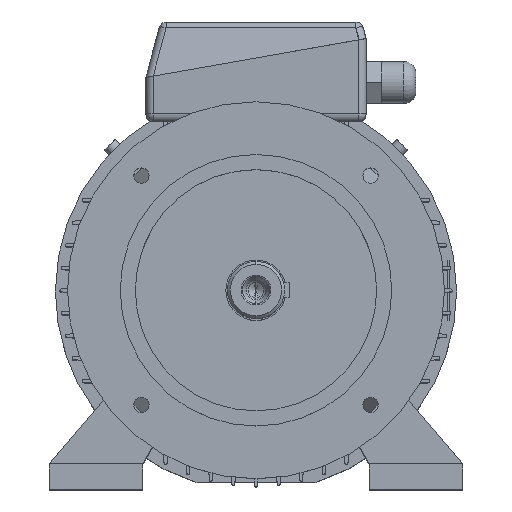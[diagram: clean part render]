
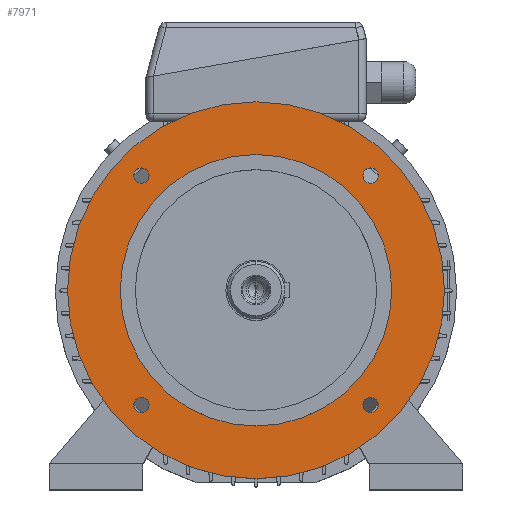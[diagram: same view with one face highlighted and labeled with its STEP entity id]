
A CAD part, top view. The second image highlights one B-rep face of the part: STEP entity #7971.
In plain terms, the highlighted planar face has unit normal (0, 0, 1).
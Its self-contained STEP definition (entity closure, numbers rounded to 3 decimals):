
#92 = EDGE_CURVE ( 'NONE', #13679, #1226, #9450, .T. ) ;
#735 = VERTEX_POINT ( 'NONE', #10415 ) ;
#827 = CIRCLE ( 'NONE', #828, 5.1 ) ;
#828 = AXIS2_PLACEMENT_3D ( 'NONE', #829, #830, #831 ) ;
#829 = CARTESIAN_POINT ( 'NONE',  ( -76.014, 76.014, 58. ) ) ;
#830 = DIRECTION ( 'NONE',  ( 0., 0., 1. ) ) ;
#831 = DIRECTION ( 'NONE',  ( 1., 0., 0. ) ) ;
#1226 = VERTEX_POINT ( 'NONE', #10659 ) ;
#1460 = EDGE_LOOP ( 'NONE', ( #5967, #5378 ) ) ;
#1474 = CIRCLE ( 'NONE', #1475, 90. ) ;
#1475 = AXIS2_PLACEMENT_3D ( 'NONE', #1476, #1481, #1482 ) ;
#1476 = CARTESIAN_POINT ( 'NONE',  ( 0., 0., 58. ) ) ;
#1481 = DIRECTION ( 'NONE',  ( 0., 0., 1. ) ) ;
#1482 = DIRECTION ( 'NONE',  ( 1., 0., 0. ) ) ;
#1724 = ORIENTED_EDGE ( 'NONE', *, *, #7813, .F. ) ;
#1893 = CARTESIAN_POINT ( 'NONE',  ( 125., 0., 58. ) ) ;
#2061 = CARTESIAN_POINT ( 'NONE',  ( -70.914, 76.014, 58. ) ) ;
#2119 = FACE_BOUND ( 'NONE', #7911, .T. ) ;
#2120 = FACE_BOUND ( 'NONE', #7433, .T. ) ;
#2121 = FACE_BOUND ( 'NONE', #6693, .T. ) ;
#2122 = FACE_BOUND ( 'NONE', #4722, .T. ) ;
#2123 = FACE_BOUND ( 'NONE', #2871, .T. ) ;
#2124 = FACE_OUTER_BOUND ( 'NONE', #1460, .T. ) ;
#2125 = PLANE ( 'NONE',  #2126 ) ;
#2126 = AXIS2_PLACEMENT_3D ( 'NONE', #2127, #2128, #2129 ) ;
#2127 = CARTESIAN_POINT ( 'NONE',  ( 0., 125., 58. ) ) ;
#2128 = DIRECTION ( 'NONE',  ( 0., 0., -1. ) ) ;
#2129 = DIRECTION ( 'NONE',  ( -1., 0., 0. ) ) ;
#2226 = CIRCLE ( 'NONE', #2227, 5.1 ) ;
#2227 = AXIS2_PLACEMENT_3D ( 'NONE', #2228, #2229, #2230 ) ;
#2228 = CARTESIAN_POINT ( 'NONE',  ( -76.014, 76.014, 58. ) ) ;
#2229 = DIRECTION ( 'NONE',  ( 0., 0., 1. ) ) ;
#2230 = DIRECTION ( 'NONE',  ( 1., 0., 0. ) ) ;
#2298 = ORIENTED_EDGE ( 'NONE', *, *, #10981, .F. ) ;
#2871 = EDGE_LOOP ( 'NONE', ( #2298, #1724 ) ) ;
#3143 = ORIENTED_EDGE ( 'NONE', *, *, #9378, .F. ) ;
#3732 = EDGE_CURVE ( 'NONE', #735, #10815, #11857, .T. ) ;
#4137 = ORIENTED_EDGE ( 'NONE', *, *, #3732, .F. ) ;
#4349 = VERTEX_POINT ( 'NONE', #12187 ) ;
#4594 = EDGE_CURVE ( 'NONE', #5589, #4349, #12319, .T. ) ;
#4722 = EDGE_LOOP ( 'NONE', ( #4137, #3143 ) ) ;
#4946 = VERTEX_POINT ( 'NONE', #12527 ) ;
#4965 = EDGE_CURVE ( 'NONE', #1226, #13679, #12536, .T. ) ;
#4988 = ORIENTED_EDGE ( 'NONE', *, *, #4594, .F. ) ;
#5176 = CIRCLE ( 'NONE', #5177, 5.1 ) ;
#5177 = AXIS2_PLACEMENT_3D ( 'NONE', #5178, #5179, #5185 ) ;
#5178 = CARTESIAN_POINT ( 'NONE',  ( -76.014, -76.014, 58. ) ) ;
#5179 = DIRECTION ( 'NONE',  ( 0., 0., 1. ) ) ;
#5183 = EDGE_CURVE ( 'NONE', #6187, #4946, #12640, .T. ) ;
#5185 = DIRECTION ( 'NONE',  ( 1., 0., 0. ) ) ;
#5378 = ORIENTED_EDGE ( 'NONE', *, *, #4965, .T. ) ;
#5567 = EDGE_CURVE ( 'NONE', #4349, #5589, #12830, .T. ) ;
#5589 = VERTEX_POINT ( 'NONE', #12850 ) ;
#5821 = CARTESIAN_POINT ( 'NONE',  ( -90., 0., 58. ) ) ;
#5949 = CARTESIAN_POINT ( 'NONE',  ( 90., 0., 58. ) ) ;
#5967 = ORIENTED_EDGE ( 'NONE', *, *, #92, .T. ) ;
#5993 = ORIENTED_EDGE ( 'NONE', *, *, #5567, .F. ) ;
#6017 = CARTESIAN_POINT ( 'NONE',  ( -81.114, -76.014, 58. ) ) ;
#6085 = CIRCLE ( 'NONE', #6086, 90. ) ;
#6086 = AXIS2_PLACEMENT_3D ( 'NONE', #6087, #6092, #6093 ) ;
#6087 = CARTESIAN_POINT ( 'NONE',  ( 0., 0., 58. ) ) ;
#6092 = DIRECTION ( 'NONE',  ( 0., 0., 1. ) ) ;
#6093 = DIRECTION ( 'NONE',  ( 1., 0., 0. ) ) ;
#6187 = VERTEX_POINT ( 'NONE', #13124 ) ;
#6693 = EDGE_LOOP ( 'NONE', ( #5993, #4988 ) ) ;
#6715 = VERTEX_POINT ( 'NONE', #13345 ) ;
#6850 = ORIENTED_EDGE ( 'NONE', *, *, #5183, .F. ) ;
#7215 = EDGE_CURVE ( 'NONE', #4946, #6187, #13772, .T. ) ;
#7297 = ORIENTED_EDGE ( 'NONE', *, *, #7215, .F. ) ;
#7433 = EDGE_LOOP ( 'NONE', ( #7297, #6850 ) ) ;
#7489 = ORIENTED_EDGE ( 'NONE', *, *, #8019, .F. ) ;
#7627 = EDGE_CURVE ( 'NONE', #7949, #6715, #827, .T. ) ;
#7735 = ORIENTED_EDGE ( 'NONE', *, *, #7627, .F. ) ;
#7813 = EDGE_CURVE ( 'NONE', #10477, #10728, #1474, .T. ) ;
#7911 = EDGE_LOOP ( 'NONE', ( #7735, #7489 ) ) ;
#7949 = VERTEX_POINT ( 'NONE', #2061 ) ;
#7971 = ADVANCED_FACE ( 'NONE', ( #2119, #2120, #2121, #2122, #2123, #2124 ), #2125, .F. ) ;
#8019 = EDGE_CURVE ( 'NONE', #6715, #7949, #2226, .T. ) ;
#9378 = EDGE_CURVE ( 'NONE', #10815, #735, #5176, .T. ) ;
#9450 = CIRCLE ( 'NONE', #9451, 125. ) ;
#9451 = AXIS2_PLACEMENT_3D ( 'NONE', #9452, #9453, #9454 ) ;
#9452 = CARTESIAN_POINT ( 'NONE',  ( 0., 0., 58. ) ) ;
#9453 = DIRECTION ( 'NONE',  ( 0., 0., 1. ) ) ;
#9454 = DIRECTION ( 'NONE',  ( 1., 0., 0. ) ) ;
#10415 = CARTESIAN_POINT ( 'NONE',  ( -70.914, -76.014, 58. ) ) ;
#10477 = VERTEX_POINT ( 'NONE', #5821 ) ;
#10659 = CARTESIAN_POINT ( 'NONE',  ( -125., 0., 58. ) ) ;
#10728 = VERTEX_POINT ( 'NONE', #5949 ) ;
#10815 = VERTEX_POINT ( 'NONE', #6017 ) ;
#10981 = EDGE_CURVE ( 'NONE', #10728, #10477, #6085, .T. ) ;
#11857 = CIRCLE ( 'NONE', #11858, 5.1 ) ;
#11858 = AXIS2_PLACEMENT_3D ( 'NONE', #11859, #11860, #11861 ) ;
#11859 = CARTESIAN_POINT ( 'NONE',  ( -76.014, -76.014, 58. ) ) ;
#11860 = DIRECTION ( 'NONE',  ( 0., 0., 1. ) ) ;
#11861 = DIRECTION ( 'NONE',  ( 1., 0., 0. ) ) ;
#12187 = CARTESIAN_POINT ( 'NONE',  ( 81.114, -76.014, 58. ) ) ;
#12319 = CIRCLE ( 'NONE', #12326, 5.1 ) ;
#12326 = AXIS2_PLACEMENT_3D ( 'NONE', #12327, #12328, #12329 ) ;
#12327 = CARTESIAN_POINT ( 'NONE',  ( 76.014, -76.014, 58. ) ) ;
#12328 = DIRECTION ( 'NONE',  ( 0., 0., 1. ) ) ;
#12329 = DIRECTION ( 'NONE',  ( 1., 0., 0. ) ) ;
#12527 = CARTESIAN_POINT ( 'NONE',  ( 81.114, 76.014, 58. ) ) ;
#12536 = CIRCLE ( 'NONE', #12537, 125. ) ;
#12537 = AXIS2_PLACEMENT_3D ( 'NONE', #12538, #12539, #12540 ) ;
#12538 = CARTESIAN_POINT ( 'NONE',  ( 0., 0., 58. ) ) ;
#12539 = DIRECTION ( 'NONE',  ( 0., 0., 1. ) ) ;
#12540 = DIRECTION ( 'NONE',  ( 1., 0., 0. ) ) ;
#12640 = CIRCLE ( 'NONE', #12641, 5.1 ) ;
#12641 = AXIS2_PLACEMENT_3D ( 'NONE', #12642, #12643, #12644 ) ;
#12642 = CARTESIAN_POINT ( 'NONE',  ( 76.014, 76.014, 58. ) ) ;
#12643 = DIRECTION ( 'NONE',  ( 0., 0., 1. ) ) ;
#12644 = DIRECTION ( 'NONE',  ( 1., 0., 0. ) ) ;
#12830 = CIRCLE ( 'NONE', #12831, 5.1 ) ;
#12831 = AXIS2_PLACEMENT_3D ( 'NONE', #12832, #12833, #12834 ) ;
#12832 = CARTESIAN_POINT ( 'NONE',  ( 76.014, -76.014, 58. ) ) ;
#12833 = DIRECTION ( 'NONE',  ( 0., 0., 1. ) ) ;
#12834 = DIRECTION ( 'NONE',  ( 1., 0., 0. ) ) ;
#12850 = CARTESIAN_POINT ( 'NONE',  ( 70.914, -76.014, 58. ) ) ;
#13124 = CARTESIAN_POINT ( 'NONE',  ( 70.914, 76.014, 58. ) ) ;
#13345 = CARTESIAN_POINT ( 'NONE',  ( -81.114, 76.014, 58. ) ) ;
#13679 = VERTEX_POINT ( 'NONE', #1893 ) ;
#13772 = CIRCLE ( 'NONE', #13773, 5.1 ) ;
#13773 = AXIS2_PLACEMENT_3D ( 'NONE', #13774, #13785, #13786 ) ;
#13774 = CARTESIAN_POINT ( 'NONE',  ( 76.014, 76.014, 58. ) ) ;
#13785 = DIRECTION ( 'NONE',  ( 0., 0., 1. ) ) ;
#13786 = DIRECTION ( 'NONE',  ( 1., 0., 0. ) ) ;
